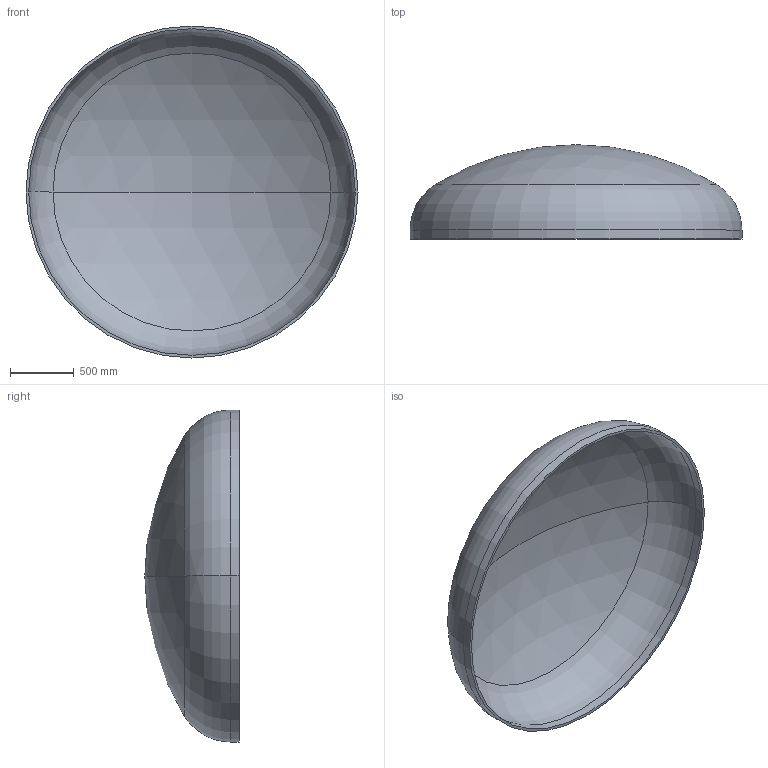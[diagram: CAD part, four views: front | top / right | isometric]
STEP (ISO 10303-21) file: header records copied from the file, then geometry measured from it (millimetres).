
FILE_DESCRIPTION (( 'STEP AP203' ), '1' );
FILE_NAME ('DIN 28013 Korbbogenform_-_Boden DIN 28013 - 2600 x 70 - I - s=21.step', '2016-07-01T15:59:14', ( '' ), ( '' ), 'SwSTEP 2.0', 'SolidWorks 2013', '' );
FILE_SCHEMA (( 'CONFIG_CONTROL_DESIGN' ));
Length unit declared in the file: millimetre
Products named in the file (1): DIN 28013 Korbbogenform_-_Boden DIN 28013 - 2600 x 70 - I - s=21
Bounding box: 2600 x 739.3 x 2600 mm (x, y, z)
Volume: 164659842.6 mm3; surface area: 15852953 mm2
Topology: 1 solids, 1 shells, 13 faces, 24 edges, 14 vertices
Faces by surface type: torus 4, cylinder 4, sphere 4, plane 1
Entity records: 407 total; most frequent: DIRECTION 72, CARTESIAN_POINT 52, ORIENTED_EDGE 48, AXIS2_PLACEMENT_3D 34, EDGE_CURVE 24, CIRCLE 20, EDGE_LOOP 14, VERTEX_POINT 14
